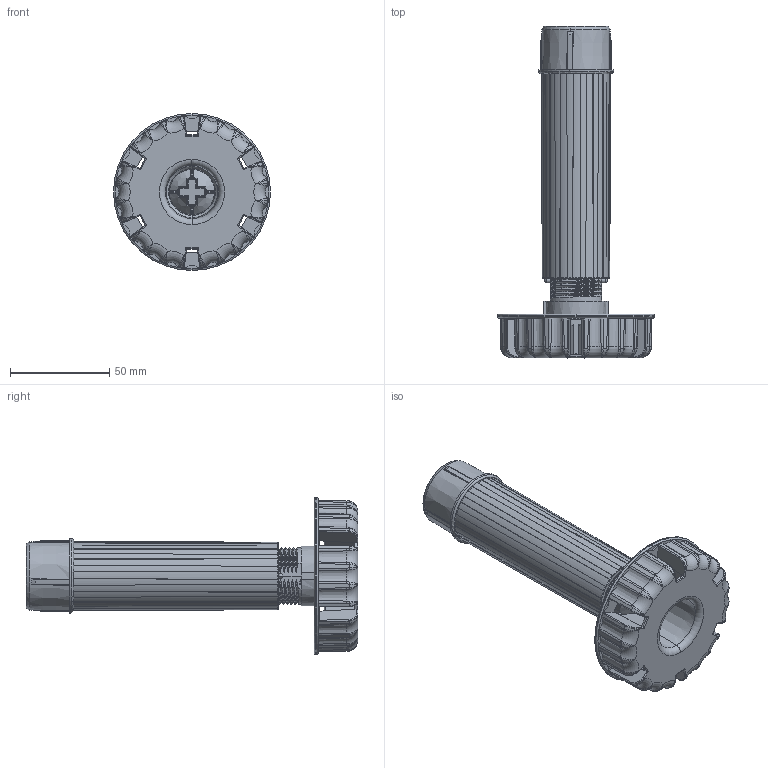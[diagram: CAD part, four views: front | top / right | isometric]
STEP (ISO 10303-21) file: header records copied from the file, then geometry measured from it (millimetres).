
FILE_DESCRIPTION((''),'2;1');
FILE_NAME('69_4172_ASM','2014-10-30T',('hha'),(''),'PRO/ENGINEER BY PARAMETRIC TECHNOLOGY CORPORATION, 2012360','PRO/ENGINEER BY PARAMETRIC TECHNOLOGY CORPORATION, 2012360','');
FILE_SCHEMA(('CONFIG_CONTROL_DESIGN'));
Length unit declared in the file: millimetre
Products named in the file (3): 69_0015; 69_1701; 69_4172_ASM
Assembly tree (2 placements, depth 2):
  69_4172_ASM
    69_0015
    69_1701
Bounding box: 79 x 166.89 x 79 mm (x, y, z)
Volume: 60329.4 mm3; surface area: 69012.7 mm2
Topology: 2 solids, 2 shells, 1106 faces, 3010 edges, 1900 vertices
Faces by surface type: bspline 328, plane 210, cone 188, cylinder 187, torus 165, sphere 28
Entity records: 88750 total; most frequent: CARTESIAN_POINT 64636, ORIENTED_EDGE 6012, DIRECTION 3647, EDGE_CURVE 3006, VERTEX_POINT 1900, B_SPLINE_CURVE_WITH_KNOTS 1582, AXIS2_PLACEMENT_3D 1440, EDGE_LOOP 1116
